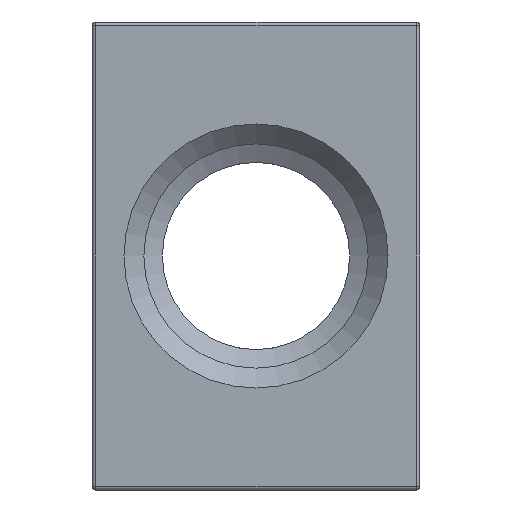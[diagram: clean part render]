
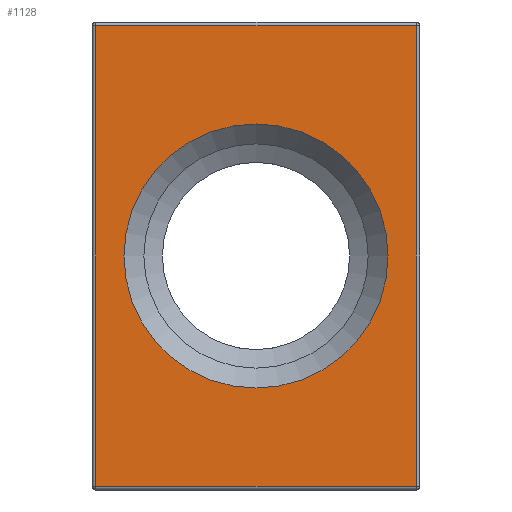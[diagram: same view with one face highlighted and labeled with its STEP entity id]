
A CAD part, left-side view. The second image highlights one B-rep face of the part: STEP entity #1128.
In plain terms, the highlighted planar face has unit normal (-1, 0, 0).
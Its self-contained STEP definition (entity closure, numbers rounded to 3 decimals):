
#58=FACE_BOUND('',#340,.T.);
#76=PLANE('',#1246);
#81=LINE('',#1764,#146);
#87=LINE('',#1794,#152);
#92=LINE('',#1801,#157);
#94=LINE('',#1804,#159);
#146=VECTOR('',#1395,10.);
#152=VECTOR('',#1431,10.);
#157=VECTOR('',#1440,10.);
#159=VECTOR('',#1444,10.);
#265=FACE_OUTER_BOUND('',#339,.T.);
#339=EDGE_LOOP('',(#850,#851,#852,#853));
#340=EDGE_LOOP('',(#854));
#429=CIRCLE('',#1247,11.286);
#489=VERTEX_POINT('',#1733);
#500=VERTEX_POINT('',#1760);
#503=VERTEX_POINT('',#1770);
#507=VERTEX_POINT('',#1787);
#517=VERTEX_POINT('',#1835);
#607=EDGE_CURVE('',#489,#500,#81,.T.);
#622=EDGE_CURVE('',#507,#503,#87,.T.);
#627=EDGE_CURVE('',#500,#507,#92,.T.);
#629=EDGE_CURVE('',#503,#489,#94,.T.);
#645=EDGE_CURVE('',#517,#517,#429,.T.);
#850=ORIENTED_EDGE('',*,*,#622,.F.);
#851=ORIENTED_EDGE('',*,*,#627,.F.);
#852=ORIENTED_EDGE('',*,*,#607,.F.);
#853=ORIENTED_EDGE('',*,*,#629,.F.);
#854=ORIENTED_EDGE('',*,*,#645,.F.);
#1128=ADVANCED_FACE('',(#265,#58),#76,.T.);
#1246=AXIS2_PLACEMENT_3D('',#1834,#1481,#1482);
#1247=AXIS2_PLACEMENT_3D('',#1836,#1483,#1484);
#1395=DIRECTION('',(0.,1.,0.));
#1431=DIRECTION('',(0.,-1.,0.));
#1440=DIRECTION('',(0.,0.,1.));
#1444=DIRECTION('',(0.,0.,-1.));
#1481=DIRECTION('center_axis',(-1.,0.,0.));
#1482=DIRECTION('ref_axis',(0.,0.,1.));
#1483=DIRECTION('center_axis',(-1.,0.,0.));
#1484=DIRECTION('ref_axis',(0.,1.,0.));
#1733=CARTESIAN_POINT('',(-76.,-13.7,-19.7));
#1760=CARTESIAN_POINT('',(-76.,13.7,-19.7));
#1764=CARTESIAN_POINT('',(-76.,0.,-19.7));
#1770=CARTESIAN_POINT('',(-76.,-13.7,19.7));
#1787=CARTESIAN_POINT('',(-76.,13.7,19.7));
#1794=CARTESIAN_POINT('',(-76.,0.,19.7));
#1801=CARTESIAN_POINT('',(-76.,13.7,-10.));
#1804=CARTESIAN_POINT('',(-76.,-13.7,-10.));
#1834=CARTESIAN_POINT('Origin',(-76.,0.,-20.));
#1835=CARTESIAN_POINT('',(-76.,-11.286,0.));
#1836=CARTESIAN_POINT('Origin',(-76.,0.,0.));
